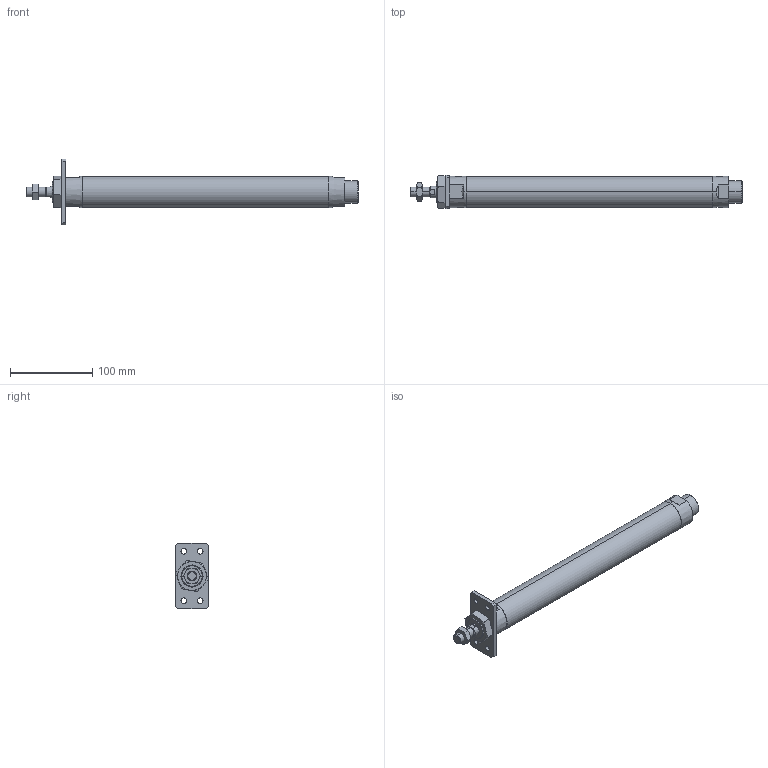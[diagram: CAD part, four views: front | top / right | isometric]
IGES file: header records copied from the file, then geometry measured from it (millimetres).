
Start section: SolidWorks IGES file using analytic representation for surfaces
Global section: file name: C:\Users\Toshiba\Desktop\J#2-32-250-A.IGS; native system: SolidWorks 2014; preprocessor: SolidWorks 2014; author: Toshiba; date: 160308.154906; units: millimetre
Bounding box: 403 x 40 x 80 mm (x, y, z)
Surface area: 58312.4 mm2 (no closed solid volume)
Topology: 0 solids, 0 shells, 114 faces, 2060 edges, 2056 vertices
Faces by surface type: bspline 67, revolution 47
